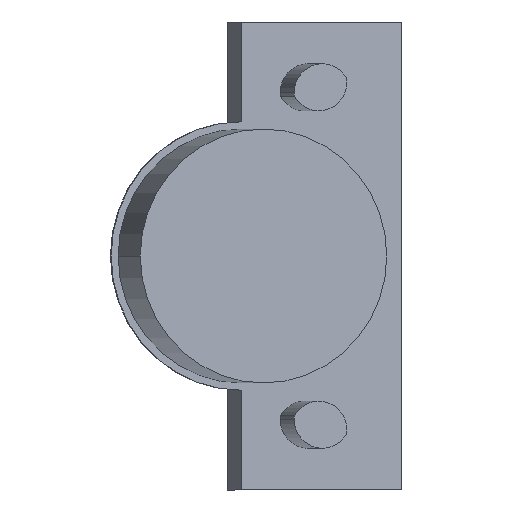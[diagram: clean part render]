
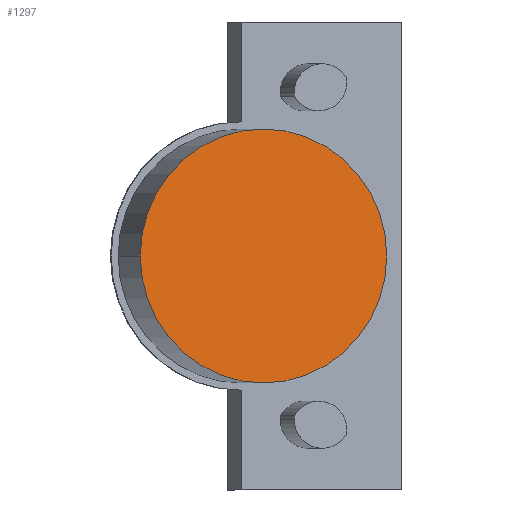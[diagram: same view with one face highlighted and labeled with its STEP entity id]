
A CAD part, front view. The second image highlights one B-rep face of the part: STEP entity #1297.
In plain terms, the highlighted planar face has unit normal (0.242, -0.97, 0).
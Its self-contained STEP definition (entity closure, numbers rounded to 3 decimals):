
#33 = AXIS2_PLACEMENT_3D ( 'NONE', #857, #1453, #622 ) ;
#151 = ORIENTED_EDGE ( 'NONE', *, *, #966, .T. ) ;
#169 = FACE_OUTER_BOUND ( 'NONE', #1120, .T. ) ;
#214 = DIRECTION ( 'NONE',  ( 0.242, -0.97, 0. ) ) ;
#262 = CARTESIAN_POINT ( 'NONE',  ( 10.048, -51.886, 0. ) ) ;
#499 = DIRECTION ( 'NONE',  ( 0.97, 0.242, 0. ) ) ;
#527 = DIRECTION ( 'NONE',  ( 0.242, -0.97, 0. ) ) ;
#534 = PLANE ( 'NONE',  #1206 ) ;
#539 = AXIS2_PLACEMENT_3D ( 'NONE', #1540, #214, #1291 ) ;
#622 = DIRECTION ( 'NONE',  ( 0.97, 0.242, 0. ) ) ;
#694 = CIRCLE ( 'NONE', #33, 17.5 ) ;
#840 = VERTEX_POINT ( 'NONE', #1246 ) ;
#857 = CARTESIAN_POINT ( 'NONE',  ( 10.048, -51.886, 0. ) ) ;
#929 = VERTEX_POINT ( 'NONE', #1494 ) ;
#966 = EDGE_CURVE ( 'NONE', #929, #840, #1011, .T. ) ;
#1011 = CIRCLE ( 'NONE', #539, 17.5 ) ;
#1118 = ORIENTED_EDGE ( 'NONE', *, *, #1533, .T. ) ;
#1120 = EDGE_LOOP ( 'NONE', ( #1118, #151 ) ) ;
#1206 = AXIS2_PLACEMENT_3D ( 'NONE', #262, #527, #499 ) ;
#1246 = CARTESIAN_POINT ( 'NONE',  ( -6.932, -56.119, 0. ) ) ;
#1291 = DIRECTION ( 'NONE',  ( 0.97, 0.242, 0. ) ) ;
#1297 = ADVANCED_FACE ( 'NONE', ( #169 ), #534, .T. ) ;
#1453 = DIRECTION ( 'NONE',  ( 0.242, -0.97, 0. ) ) ;
#1494 = CARTESIAN_POINT ( 'NONE',  ( 27.028, -47.652, 0. ) ) ;
#1533 = EDGE_CURVE ( 'NONE', #840, #929, #694, .T. ) ;
#1540 = CARTESIAN_POINT ( 'NONE',  ( 10.048, -51.886, 0. ) ) ;
